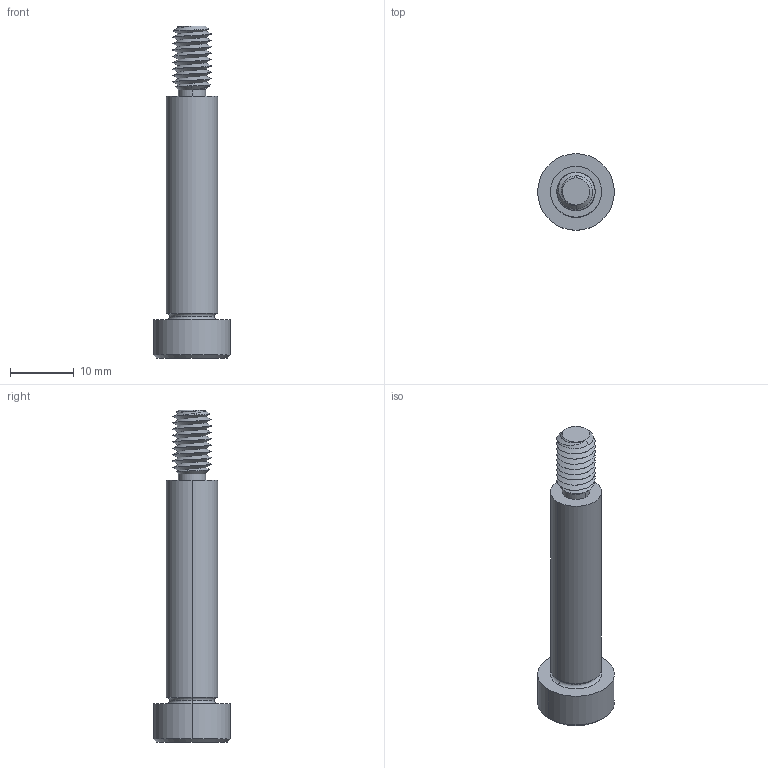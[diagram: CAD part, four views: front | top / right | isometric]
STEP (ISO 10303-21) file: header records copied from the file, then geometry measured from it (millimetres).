
FILE_DESCRIPTION (( 'STEP AP203' ), '1' );
FILE_NAME ('P0130.080-035-B2.step', '2021-11-09T21:40:15', ( '' ), ( '' ), 'SwSTEP 2.0', 'SolidWorks 2019', '' );
FILE_SCHEMA (( 'CONFIG_CONTROL_DESIGN' ));
Length unit declared in the file: millimetre
Products named in the file (1): P0130.080-035-B2
Bounding box: 12 x 12 x 52 mm (x, y, z)
Volume: 2588.1 mm3; surface area: 1712.5 mm2
Topology: 1 solids, 1 shells, 60 faces, 142 edges, 85 vertices
Faces by surface type: cylinder 24, plane 16, cone 14, torus 4, bspline 2
Entity records: 4245 total; most frequent: CARTESIAN_POINT 2899, ORIENTED_EDGE 280, DIRECTION 247, EDGE_CURVE 140, AXIS2_PLACEMENT_3D 99, VERTEX_POINT 85, EDGE_LOOP 63, ADVANCED_FACE 60
